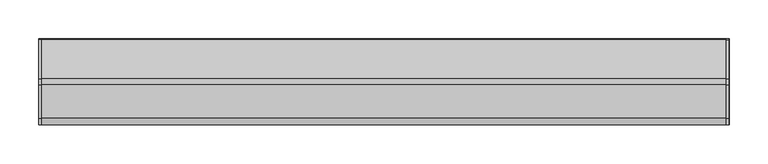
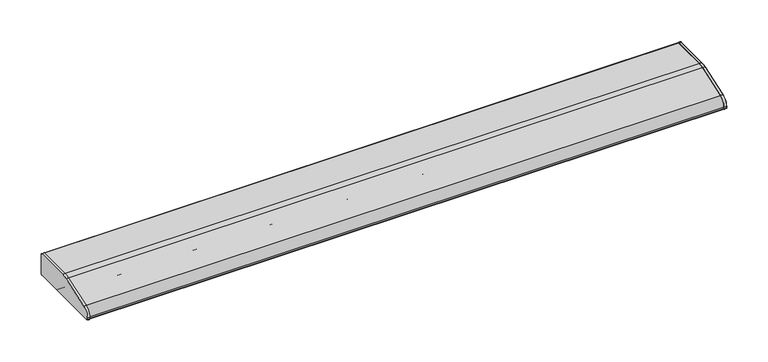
"""IFC4 building model written with IfcOpenShell, lengths in millimetres: light fixture geometry, HermanMiller_SupplementalProducts_G6136_UtilityTaskLight : AO Etho Canvas 42W."""

from ifc_helpers import new_model, si_unit, point, frame, frame_2d, origin, place, context, project, spatial, polyline, circle_curve, trimmed, segment, composite_curve, outline, extrude, source, transform, mapped, element, save


def light_fixture_a1dc7b85(model_context):
    return source(origin(), model_context, "Body", "SweptSolid", [
        extrude(outline(composite_curve([segment(polyline([(53.975, 1339.85), (-53.975, 1339.85)]), True, "CONTINUOUS"), segment(trimmed(circle_curve(frame_2d((-53.975, 1341.4375)), 1.5875), [point((-53.975, 1339.85))], [point((-55.5625, 1341.4375))], False, "CARTESIAN"), True, "CONTINUOUS"), segment(polyline([(-55.5625, 1341.4375), (-55.5625, 1343.4785714)]), True, "CONTINUOUS"), segment(trimmed(circle_curve(frame_2d((-42.8625, 1343.4785714)), 12.7), [point((-55.5625, 1343.4785714))], [point((-46.9814189, 1355.4920849))], False, "CARTESIAN"), True, "CONTINUOUS"), segment(polyline([(-46.9814189, 1355.4920849), (-4.0045045, 1370.227027)]), True, "CONTINUOUS"), segment(trimmed(circle_curve(frame_2d((4.2333333, 1346.2)), 25.4), [point((-4.0045045, 1370.227027))], [point((4.2333333, 1371.6))], False, "CARTESIAN"), True, "CONTINUOUS"), segment(polyline([(4.2333333, 1371.6), (53.975, 1371.6)]), True, "CONTINUOUS"), segment(trimmed(circle_curve(frame_2d((53.975, 1370.0125)), 1.5875), [point((53.975, 1371.6))], [point((55.5625, 1370.0125))], False, "CARTESIAN"), True, "CONTINUOUS"), segment(polyline([(55.5625, 1370.0125), (55.5625, 1341.4375)]), True, "CONTINUOUS"), segment(trimmed(circle_curve(frame_2d((53.975, 1341.4375)), 1.5875), [point((55.5625, 1341.4375))], [point((53.975, 1339.85))], False, "CARTESIAN"), True, "CONTINUOUS")], self_intersect=False)), frame((441.833, 0.0, 0.0), z_axis=(1.0, 0.0, 0.0), x_axis=(0.0, 1.0, 0.0)), (0.0, 0.0, 1.0), 3.175),
        extrude(outline(composite_curve([segment(trimmed(circle_curve(frame_2d((53.975, 1370.0125)), 1.5875), [point((53.975, 1371.6))], [point((55.5625, 1370.0125))], False, "CARTESIAN"), True, "CONTINUOUS"), segment(polyline([(55.5625, 1370.0125), (55.5625, 1341.4375)]), True, "CONTINUOUS"), segment(trimmed(circle_curve(frame_2d((53.975, 1341.4375)), 1.5875), [point((55.5625, 1341.4375))], [point((53.975, 1339.85))], False, "CARTESIAN"), True, "CONTINUOUS"), segment(polyline([(53.975, 1339.85), (-53.975, 1339.85)]), True, "CONTINUOUS"), segment(trimmed(circle_curve(frame_2d((-53.975, 1341.4375)), 1.5875), [point((-53.975, 1339.85))], [point((-55.5625, 1341.4375))], False, "CARTESIAN"), True, "CONTINUOUS"), segment(polyline([(-55.5625, 1341.4375), (-55.5625, 1343.4785714)]), True, "CONTINUOUS"), segment(trimmed(circle_curve(frame_2d((-42.8625, 1343.4785714)), 12.7), [point((-55.5625, 1343.4785714))], [point((-46.9814189, 1355.4920849))], False, "CARTESIAN"), True, "CONTINUOUS"), segment(polyline([(-46.9814189, 1355.4920849), (-4.0045045, 1370.227027)]), True, "CONTINUOUS"), segment(trimmed(circle_curve(frame_2d((4.2333333, 1346.2)), 25.4), [point((-4.0045045, 1370.227027))], [point((4.2333333, 1371.6))], False, "CARTESIAN"), True, "CONTINUOUS"), segment(polyline([(4.2333333, 1371.6), (53.975, 1371.6)]), True, "CONTINUOUS")], self_intersect=False)), frame((-445.008, 0.0, 0.0), z_axis=(1.0, 0.0, 0.0), x_axis=(0.0, 1.0, 0.0)), (0.0, 0.0, 1.0), 3.175),
        extrude(outline(composite_curve([segment(polyline([(55.5625, 1370.0125), (55.5625, 1341.4375)]), True, "CONTINUOUS"), segment(trimmed(circle_curve(frame_2d((53.975, 1341.4375)), 1.5875), [point((55.5625, 1341.4375))], [point((53.975, 1339.85))], False, "CARTESIAN"), True, "CONTINUOUS"), segment(polyline([(53.975, 1339.85), (19.05, 1339.85)]), True, "CONTINUOUS"), segment(trimmed(circle_curve(frame_2d((19.05, 1341.4375)), 1.5875), [point((19.05, 1339.85))], [point((17.4625, 1341.4375))], False, "CARTESIAN"), True, "CONTINUOUS"), segment(polyline([(17.4625, 1341.4375), (17.4625, 1370.0125), (4.4979167, 1370.0125)]), True, "CONTINUOUS"), segment(trimmed(circle_curve(frame_2d((4.4979167, 1344.6125)), 25.4), [point((4.4979167, 1370.0125))], [point((-3.7399212, 1368.639527))], True, "CARTESIAN"), True, "CONTINUOUS"), segment(polyline([(-3.7399212, 1368.639527), (-37.4564189, 1357.0795849)]), True, "CONTINUOUS"), segment(trimmed(circle_curve(frame_2d((-33.3375, 1345.0660714)), 12.7), [point((-37.4564189, 1357.0795849))], [point((-46.0375, 1345.0660714))], True, "CARTESIAN"), True, "CONTINUOUS"), segment(polyline([(-46.0375, 1345.0660714), (-46.0375, 1341.4375)]), True, "CONTINUOUS"), segment(trimmed(circle_curve(frame_2d((-47.625, 1341.4375)), 1.5875), [point((-46.0375, 1341.4375))], [point((-47.625, 1339.85))], False, "CARTESIAN"), True, "CONTINUOUS"), segment(polyline([(-47.625, 1339.85), (-53.975, 1339.85)]), True, "CONTINUOUS"), segment(trimmed(circle_curve(frame_2d((-53.975, 1341.4375)), 1.5875), [point((-53.975, 1339.85))], [point((-55.5625, 1341.4375))], False, "CARTESIAN"), True, "CONTINUOUS"), segment(polyline([(-55.5625, 1341.4375), (-55.5625, 1343.4785714)]), True, "CONTINUOUS"), segment(trimmed(circle_curve(frame_2d((-42.8625, 1343.4785714)), 12.7), [point((-55.5625, 1343.4785714))], [point((-46.9814189, 1355.4920849))], False, "CARTESIAN"), True, "CONTINUOUS"), segment(polyline([(-46.9814189, 1355.4920849), (-4.0045045, 1370.227027)]), True, "CONTINUOUS"), segment(trimmed(circle_curve(frame_2d((4.2333333, 1346.2)), 25.4), [point((-4.0045045, 1370.227027))], [point((4.2333333, 1371.6))], False, "CARTESIAN"), True, "CONTINUOUS"), segment(polyline([(4.2333333, 1371.6), (53.975, 1371.6)]), True, "CONTINUOUS"), segment(trimmed(circle_curve(frame_2d((53.975, 1370.0125)), 1.5875), [point((53.975, 1371.6))], [point((55.5625, 1370.0125))], False, "CARTESIAN"), True, "CONTINUOUS")], self_intersect=False)), frame((-445.008, 0.0, 0.0), z_axis=(1.0, 0.0, 0.0), x_axis=(0.0, 1.0, 0.0)), (0.0, 0.0, 1.0), 890.4820011),
        extrude(outline(composite_curve([segment(trimmed(circle_curve(frame_2d((1.5875, 1357.3125)), 9.525), [point((-7.9375, 1357.3125))], [point((11.1125, 1357.3125))], False, "CARTESIAN"), True, "CONTINUOUS"), segment(trimmed(circle_curve(frame_2d((1.5875, 1357.3125)), 9.525), [point((11.1125, 1357.3125))], [point((-7.9375, 1357.3125))], False, "CARTESIAN"), True, "CONTINUOUS")], self_intersect=False)), frame((419.608, 0.0, 0.0), z_axis=(1.0, 0.0, 0.0), x_axis=(0.0, 1.0, 0.0)), (0.0, 0.0, 1.0), 12.7),
        extrude(outline(composite_curve([segment(trimmed(circle_curve(frame_2d((1.5875, 1357.3125)), 9.525), [point((-7.9375, 1357.3125))], [point((11.1125, 1357.3125))], False, "CARTESIAN"), True, "CONTINUOUS"), segment(trimmed(circle_curve(frame_2d((1.5875, 1357.3125)), 9.525), [point((11.1125, 1357.3125))], [point((-7.9375, 1357.3125))], False, "CARTESIAN"), True, "CONTINUOUS")], self_intersect=False)), frame((-432.308, 0.0, 0.0), z_axis=(1.0, 0.0, 0.0), x_axis=(0.0, 1.0, 0.0)), (0.0, 0.0, 1.0), 12.7),
        extrude(outline(composite_curve([segment(trimmed(circle_curve(frame_2d((1.5875, 1357.3125)), 9.525), [point((-7.9375, 1357.3125))], [point((11.1125, 1357.3125))], False, "CARTESIAN"), True, "CONTINUOUS"), segment(trimmed(circle_curve(frame_2d((1.5875, 1357.3125)), 9.525), [point((11.1125, 1357.3125))], [point((-7.9375, 1357.3125))], False, "CARTESIAN"), True, "CONTINUOUS")], self_intersect=False)), frame((-419.608, 0.0, 0.0), z_axis=(1.0, 0.0, 0.0), x_axis=(0.0, 1.0, 0.0)), (0.0, 0.0, 1.0), 839.216),
        extrude(outline(composite_curve([segment(polyline([(17.4625, 1343.025), (-46.0375, 1343.025), (-46.0375, 1345.0660714)]), True, "CONTINUOUS"), segment(trimmed(circle_curve(frame_2d((-33.3375, 1345.0660714)), 12.7), [point((-46.0375, 1345.0660714))], [point((-37.4564189, 1357.0795849))], False, "CARTESIAN"), True, "CONTINUOUS"), segment(polyline([(-37.4564189, 1357.0795849), (-3.7399212, 1368.639527)]), True, "CONTINUOUS"), segment(trimmed(circle_curve(frame_2d((4.4979167, 1344.6125)), 25.4), [point((-3.7399212, 1368.639527))], [point((4.4979167, 1370.0125))], False, "CARTESIAN"), True, "CONTINUOUS"), segment(polyline([(4.4979167, 1370.0125), (17.4625, 1370.0125), (17.4625, 1343.025)]), True, "CONTINUOUS")], self_intersect=False)), frame((432.308, 0.0, 0.0), z_axis=(1.0, 0.0, 0.0), x_axis=(0.0, 1.0, 0.0)), (0.0, 0.0, 1.0), 9.525),
        extrude(outline(composite_curve([segment(polyline([(17.4625, 1343.025), (-46.0375, 1343.025), (-46.0375, 1345.0660714)]), True, "CONTINUOUS"), segment(trimmed(circle_curve(frame_2d((-33.3375, 1345.0660714)), 12.7), [point((-46.0375, 1345.0660714))], [point((-37.4564189, 1357.0795849))], False, "CARTESIAN"), True, "CONTINUOUS"), segment(polyline([(-37.4564189, 1357.0795849), (-3.7399212, 1368.639527)]), True, "CONTINUOUS"), segment(trimmed(circle_curve(frame_2d((4.4979167, 1344.6125)), 25.4), [point((-3.7399212, 1368.639527))], [point((4.4979167, 1370.0125))], False, "CARTESIAN"), True, "CONTINUOUS"), segment(polyline([(4.4979167, 1370.0125), (17.4625, 1370.0125), (17.4625, 1343.025)]), True, "CONTINUOUS")], self_intersect=False)), frame((-441.833, 0.0, 0.0), z_axis=(1.0, 0.0, 0.0), x_axis=(0.0, 1.0, 0.0)), (0.0, 0.0, 1.0), 9.525),
    ])


if __name__ == "__main__":
    model = new_model("IFC4")
    model_context = context("Model", 3, world=origin())
    ifc_project = project(units=[si_unit("LENGTHUNIT", "METRE", prefix="MILLI")], contexts=[model_context])
    site = spatial("IfcSite", under=ifc_project)
    building = spatial("IfcBuilding", under=site)
    placement = place(None, origin())
    light_fixture_shape = light_fixture_a1dc7b85(model_context)
    element("IfcLightFixture", 1, ObjectType="HermanMiller_SupplementalProducts_G6136_UtilityTaskLight : AO Etho Canvas 42W", at=placement, inside=building, context=model_context, shape_type="MappedRepresentation", body=[
        mapped(light_fixture_shape, transform((0.0, 0.0, 0.0), x_axis=(1.0, 0.0, 0.0), y_axis=(0.0, 1.0, 0.0), z_axis=(0.0, 0.0, 1.0))),
    ])
    save(model, "model.ifc")
